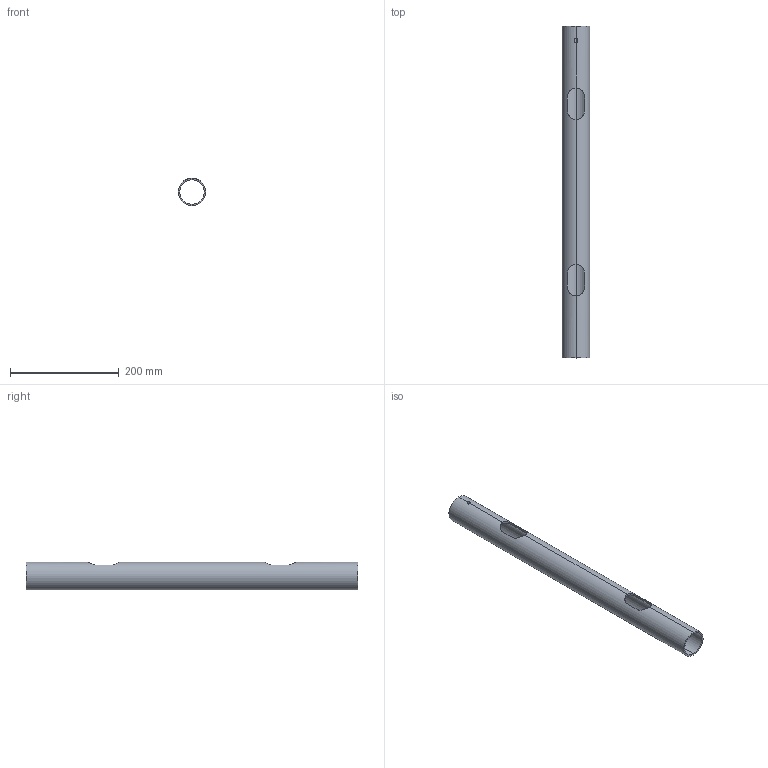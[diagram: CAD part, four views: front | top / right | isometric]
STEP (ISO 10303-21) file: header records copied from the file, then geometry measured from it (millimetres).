
FILE_DESCRIPTION (( 'STEP AP203' ), '1' );
FILE_NAME ('10-0602-00 REV 1, POLE, 2in OD x 2 FT, CABLE ROUTES.STEP', '2018-01-24T23:33:19', ( '' ), ( '' ), 'SwSTEP 2.0', 'SolidWorks 2012', '' );
FILE_SCHEMA (( 'CONFIG_CONTROL_DESIGN' ));
Length unit declared in the file: inch
Products named in the file (1): 10-0602-00 REV 1, POLE, 2in OD x 2 FT, CABLE ROUTES
Bounding box: 50.8 x 609.6 x 50.8 mm (x, y, z)
Volume: 268091.7 mm3; surface area: 178002.8 mm2
Topology: 1 solids, 1 shells, 16 faces, 60 edges, 40 vertices
Faces by surface type: cylinder 10, plane 6
Entity records: 1255 total; most frequent: CARTESIAN_POINT 693, ORIENTED_EDGE 120, DIRECTION 78, EDGE_CURVE 60, VERTEX_POINT 40, LINE 28, VECTOR 28, AXIS2_PLACEMENT_3D 25
